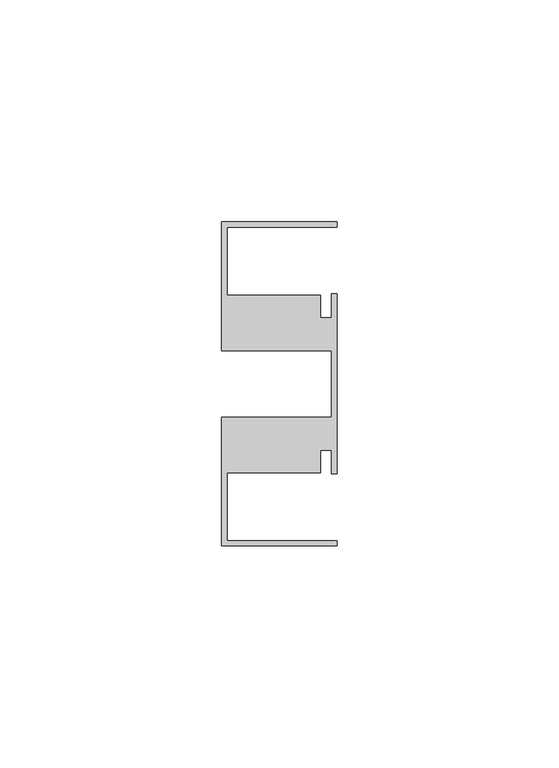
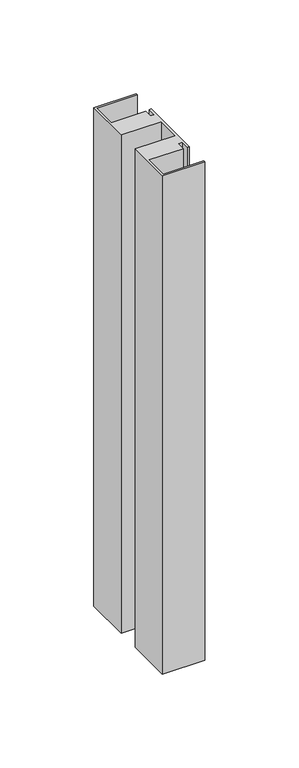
"""IFC4 building model written with IfcOpenShell, lengths in millimetres: member geometry, Прямоугольный импост : 9-AMG-1-Профиль 26Х73 Верх П."""

from ifc_helpers import new_model, si_unit, frame, origin, place, context, project, spatial, polyline, outline, extrude, source, transform, mapped, element, save


def member_1f7af600(model_context):
    return source(origin(), model_context, "Body", "SweptSolid", [
        extrude(outline(polyline([(-26.0, 36.5), (0.0, 36.5), (0.0, 35.3), (-24.8, 35.3), (-24.8, 20.0), (-3.7, 20.0), (-3.7, 14.95), (-1.2, 14.95), (-1.2, 20.3007529), (0.0, 20.3007529), (0.0, -20.3007529), (-1.2, -20.3007529), (-1.2, -14.95), (-3.7, -14.95), (-3.7, -20.0), (-24.8, -20.0), (-24.8, -35.3), (0.0, -35.3), (0.0, -36.5), (-26.0, -36.5), (-26.0, -7.5116043), (-1.2, -7.5116043), (-1.2, 7.5116043), (-26.0, 7.5116043), (-26.0, 36.5)])), frame((0.0, 0.0, -324.0), z_axis=(0.0, 0.0, 1.0), x_axis=(1.0, 0.0, 0.0)), (0.0, 0.0, 1.0), 324.0),
    ])


if __name__ == "__main__":
    model = new_model("IFC4")
    model_context = context("Model", 3, world=origin())
    ifc_project = project(units=[si_unit("LENGTHUNIT", "METRE", prefix="MILLI")], contexts=[model_context])
    site = spatial("IfcSite", under=ifc_project)
    building = spatial("IfcBuilding", under=site)
    placement = place(None, origin())
    member_shape = member_1f7af600(model_context)
    element("IfcMember", 1, ObjectType="Прямоугольный импост : 9-AMG-1-Профиль 26Х73 Верх П", at=placement, inside=building, context=model_context, shape_type="MappedRepresentation", body=[
        mapped(member_shape, transform((0.0, 0.0, 0.0), x_axis=(1.0, 0.0, 0.0), y_axis=(0.0, 1.0, 0.0), z_axis=(0.0, 0.0, 1.0))),
    ])
    save(model, "model.ifc")
